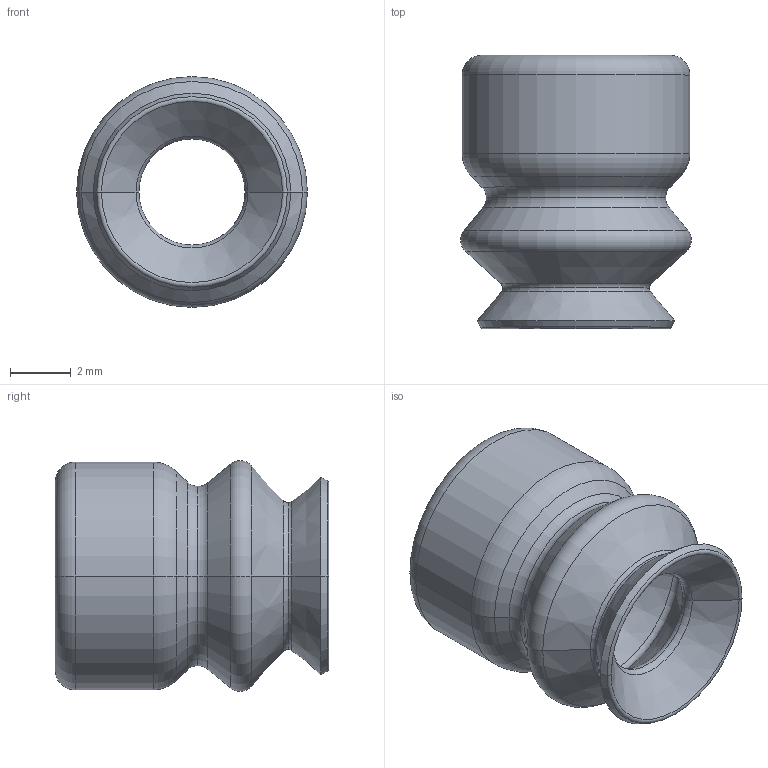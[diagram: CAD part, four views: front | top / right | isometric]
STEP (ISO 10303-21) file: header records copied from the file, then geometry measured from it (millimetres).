
FILE_DESCRIPTION (( 'STEP AP203' ), '1' );
FILE_NAME ('PJG_06--A.STEP', '2018-09-11T07:05:47', ( '' ), ( '' ), 'SwSTEP 2.0', 'SolidWorks 2016', '' );
FILE_SCHEMA (( 'CONFIG_CONTROL_DESIGN' ));
Length unit declared in the file: millimetre
Products named in the file (1): PJG_06--A
Bounding box: 7.6 x 9 x 7.6 mm (x, y, z)
Volume: 168.8 mm3; surface area: 416.3 mm2
Topology: 1 solids, 1 shells, 60 faces, 120 edges, 62 vertices
Faces by surface type: torus 34, cone 18, cylinder 6, plane 2
Entity records: 1629 total; most frequent: DIRECTION 338, CARTESIAN_POINT 243, ORIENTED_EDGE 240, AXIS2_PLACEMENT_3D 157, EDGE_CURVE 120, CIRCLE 96, EDGE_LOOP 62, VERTEX_POINT 62
